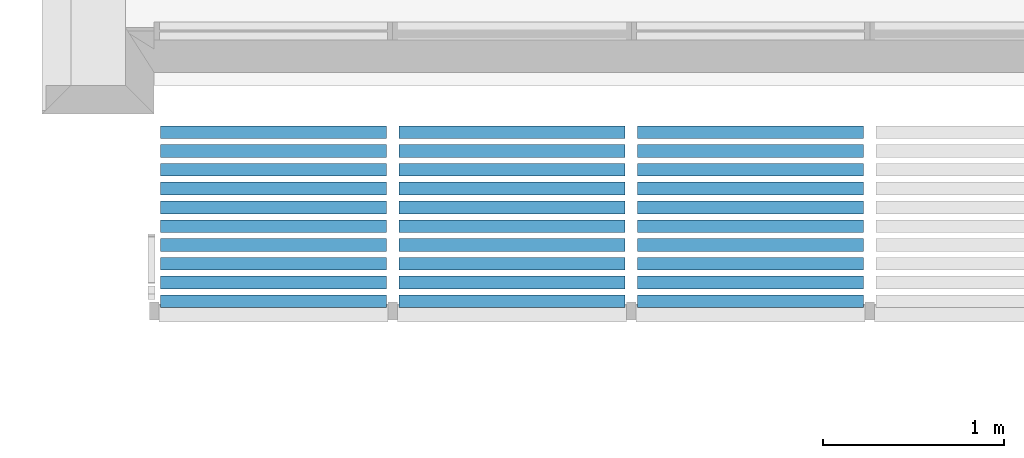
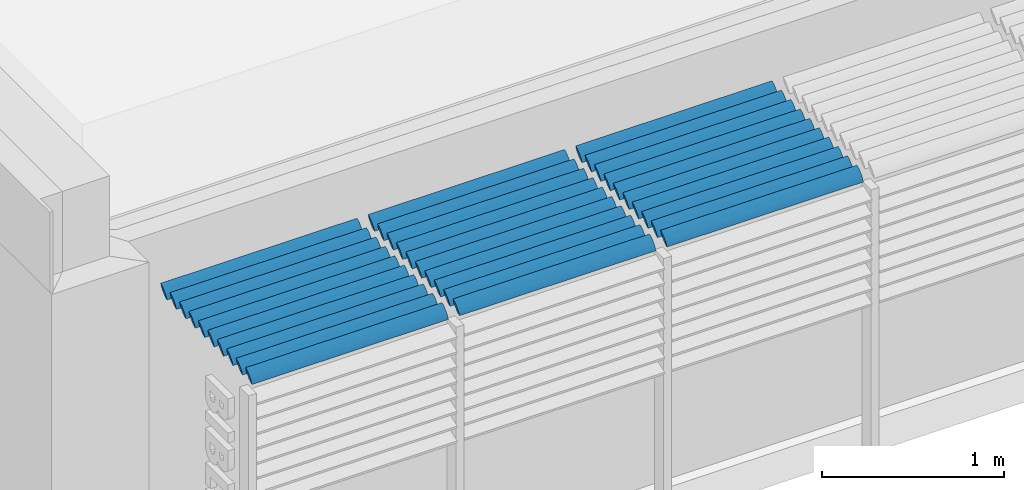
# One storey, part 31 of 64: 3 discrete accessories.
"""IFC2X3 building model written with IfcOpenShell, lengths in metres."""

import ifcopenshell
import ifcopenshell.guid

model = None  # the IFC model being written
_history = None  # IfcOwnerHistory: only IFC2X3 demands one
_inside = {}  # id of a spatial element -> (the spatial element, [elements in it])
_under = {}  # id of a project, library or spatial element -> (it, [spatial elements below it])
_declared = {}  # id of a project -> (the project, [libraries it declares])
_typed = {}  # id of a type object -> (the type object, [elements of that type])
_made_of = {}  # id of a material, layer set ... -> (it, [elements and type objects made of it])


def new_model(schema):
    """Start an empty IFC model of exactly this schema.

    Asked for "IFC4X3", IfcOpenShell would pick the latest addendum, in which some entities
    have other attributes; the version numbers below select the first issue.
    IFC2X3 requires an IfcOwnerHistory on every rooted entity: one is made here for all.
    """
    global model, _history
    if schema == "IFC4X3":
        model = ifcopenshell.file(schema_version=(4, 3, 0, 0))
    else:
        model = ifcopenshell.file(schema=schema)
    _inside.clear()
    _under.clear()
    _declared.clear()
    _typed.clear()
    _made_of.clear()
    _history = None
    if model.schema == "IFC2X3":
        org = make("IfcOrganization", Name="unknown")
        user = make(
            "IfcPersonAndOrganization",
            ThePerson=make("IfcPerson", FamilyName="unknown"),
            TheOrganization=org,
        )
        app = make(
            "IfcApplication",
            ApplicationDeveloper=org,
            Version="unknown",
            ApplicationFullName="unknown",
            ApplicationIdentifier="unknown",
        )
        _history = make(
            "IfcOwnerHistory",
            OwningUser=user,
            OwningApplication=app,
            ChangeAction="ADDED",
            CreationDate=0,
        )
    return model


def make(cls, **values):
    """One entity of the class cls with the attributes given. An attribute that is None is left unset."""
    return model.create_entity(
        cls, **{name: value for name, value in values.items() if value is not None}
    )


def entity(cls, *values):
    """Any entity or typed value of the class cls, its attributes in the order of the schema. None: left unset."""
    e = model.create_entity(cls)
    for i, value in enumerate(values):
        if value is not None:
            e[i] = value
    return e


def rooted(cls, **values):
    """An entity with a GlobalId (a new one), such as an element, a storey or a relation."""
    return make(cls, GlobalId=ifcopenshell.guid.new(), OwnerHistory=_history, **values)


def si_unit(unit_type, name, prefix=None):
    """IfcSIUnit, for example si_unit("LENGTHUNIT", "METRE", prefix="MILLI")."""
    return make("IfcSIUnit", UnitType=unit_type, Prefix=prefix, Name=name)


def converted_unit(unit_type, name, factor, base, dimensions=None, offset=None):
    """IfcConversionBasedUnit, such as the inch: factor (a typed value) times the base unit."""
    return make(
        "IfcConversionBasedUnit"
        if offset is None
        else "IfcConversionBasedUnitWithOffset",
        ConversionOffset=offset,
        Dimensions=None
        if dimensions is None
        else entity("IfcDimensionalExponents", *dimensions),
        UnitType=unit_type,
        Name=name,
        ConversionFactor=make(
            "IfcMeasureWithUnit", ValueComponent=factor, UnitComponent=base
        ),
    )


def derived_unit(unit_type, elements):
    """IfcDerivedUnit: a product of units, each with its exponent."""
    return make(
        "IfcDerivedUnit",
        Elements=[
            make("IfcDerivedUnitElement", Unit=unit, Exponent=power)
            for unit, power in elements
        ],
        UnitType=unit_type,
    )


def assignment(units):
    """IfcUnitAssignment: the units of a project."""
    return None if units is None else make("IfcUnitAssignment", Units=units)


def point(xyz):
    """IfcCartesianPoint."""
    return None if xyz is None else make("IfcCartesianPoint", Coordinates=xyz)


def direction(xyz):
    """IfcDirection."""
    return None if xyz is None else make("IfcDirection", DirectionRatios=xyz)


def frame(location, z_axis=None, x_axis=None):
    """IfcAxis2Placement3D, a coordinate frame: its origin and axes. An axis left out is left unset."""
    return make(
        "IfcAxis2Placement3D",
        Location=point(location),
        Axis=direction(z_axis),
        RefDirection=direction(x_axis),
    )


def origin():
    """The frame at (0, 0, 0) with its axes left unset."""
    return frame((0.0, 0.0, 0.0))


def place(relative_to, where):
    """IfcLocalPlacement: puts the frame where relative to a parent placement (None: the world)."""
    return make(
        "IfcLocalPlacement", PlacementRelTo=relative_to, RelativePlacement=where
    )


def context(
    kind, dimensions, precision=None, world=None, true_north=None, identifier=None
):
    """IfcGeometricRepresentationContext, for example the 3D "Model" context."""
    return make(
        "IfcGeometricRepresentationContext",
        ContextIdentifier=identifier,
        ContextType=kind,
        CoordinateSpaceDimension=dimensions,
        Precision=precision,
        WorldCoordinateSystem=world,
        TrueNorth=true_north,
    )


def subcontext(parent, identifier, kind, view, scale=None):
    """IfcGeometricRepresentationSubContext, for example "Body" below "Model"."""
    return make(
        "IfcGeometricRepresentationSubContext",
        ContextIdentifier=identifier,
        ContextType=kind,
        ParentContext=parent,
        TargetScale=scale,
        TargetView=view,
    )


def project(units=None, contexts=None):
    """IfcProject with its units and contexts."""
    return rooted(
        "IfcProject",
        Name="project",
        RepresentationContexts=contexts,
        UnitsInContext=assignment(units),
    )


def spatial(cls, under=None, at=None, **own):
    """A site, building, storey or space (cls), placed at a placement, below another one or the project."""
    s = rooted(cls, ObjectPlacement=at, **own)
    if under is not None:
        _under.setdefault(under.id(), (under, []))[1].append(s)
    return s


def polyline(points):
    """IfcPolyline through the points."""
    return make("IfcPolyline", Points=[point(p) for p in points])


def outline(outer, holes=None, kind="AREA"):
    """IfcArbitraryClosedProfileDef: a profile drawn as a closed curve; with holes, ...WithVoids."""
    if holes is None:
        return make("IfcArbitraryClosedProfileDef", ProfileType=kind, OuterCurve=outer)
    return make(
        "IfcArbitraryProfileDefWithVoids",
        ProfileType=kind,
        OuterCurve=outer,
        InnerCurves=holes,
    )


def extrude(swept, where, along, depth):
    """IfcExtrudedAreaSolid: the profile swept, set in the frame where, extruded along a direction by depth."""
    return make(
        "IfcExtrudedAreaSolid",
        SweptArea=swept,
        Position=where,
        ExtrudedDirection=direction(along),
        Depth=depth,
    )


def shape(context_of_items, identifier, shape_type, items):
    """IfcShapeRepresentation: the items that make up one representation, for example the "Body"."""
    return make(
        "IfcShapeRepresentation",
        ContextOfItems=context_of_items,
        RepresentationIdentifier=identifier,
        RepresentationType=shape_type,
        Items=items,
    )


def source(mapping_origin, context_of_items, identifier, shape_type, items):
    """IfcRepresentationMap: a shape defined once, which mapped items show again and again."""
    return make(
        "IfcRepresentationMap",
        MappingOrigin=mapping_origin,
        MappedRepresentation=shape(context_of_items, identifier, shape_type, items),
    )


def transform(
    local_origin,
    x_axis=None,
    y_axis=None,
    z_axis=None,
    scale=None,
    scale2=None,
    scale3=None,
    uniform=True,
):
    """IfcCartesianTransformationOperator3D, or its non-uniform kind. x_axis, y_axis, z_axis: its Axis1, 2, 3."""
    if uniform:
        return make(
            "IfcCartesianTransformationOperator3D",
            Axis1=direction(x_axis),
            Axis2=direction(y_axis),
            LocalOrigin=point(local_origin),
            Scale=scale,
            Axis3=direction(z_axis),
        )
    return make(
        "IfcCartesianTransformationOperator3DnonUniform",
        Axis1=direction(x_axis),
        Axis2=direction(y_axis),
        LocalOrigin=point(local_origin),
        Scale=scale,
        Axis3=direction(z_axis),
        Scale2=scale2,
        Scale3=scale3,
    )


def mapped(mapping_source, mapping_target):
    """IfcMappedItem: shows the shape of a source again, moved by a transform."""
    return make(
        "IfcMappedItem", MappingSource=mapping_source, MappingTarget=mapping_target
    )


def material(Name=None, Category=None):
    """IfcMaterial."""
    return make("IfcMaterial", Name=Name, Category=Category)


def made_of(thing, what):
    """Note that an element or type object is made of a material, layer set ...; save() writes the relation."""
    if what is not None:
        _made_of.setdefault(what.id(), (what, []))[1].append(thing)
    return thing


def type_object(cls, material=None, **own):
    """A type object (cls), such as IfcWallType, which elements share."""
    return made_of(rooted(cls, **own), material)


def type_shapes(of_type, sources):
    """Give a type object the sources (RepresentationMaps) that its elements show as mapped items."""
    of_type.RepresentationMaps = sources


def element(
    cls,
    number,
    at=None,
    inside=None,
    cuts=None,
    type_object=None,
    material=None,
    context=None,
    identifier="Body",
    shape_type=None,
    held_by="IfcProductDefinitionShape",
    body=None,
    shapes=None,
    **own,
):
    """One element of the class cls, such as IfcWall. Its Tag is "e" and its number.

    at: its placement. inside: the storey or other place that contains it. cuts: it is an
    opening in that element (IfcRelVoidsElement). A single representation is given by context,
    identifier, shape_type and body (its items); several are given by shapes. held_by: the class
    of the entity that holds the representations. save() writes the other relations.
    """
    e = rooted(cls, Tag="e%d" % number, ObjectPlacement=at, **own)
    if body is not None:
        shapes = [shape(context, identifier, shape_type, body)]
    if shapes is not None:
        e.Representation = make(held_by, Representations=shapes)
    if inside is not None:
        _inside.setdefault(inside.id(), (inside, []))[1].append(e)
    if cuts is not None:
        rooted(
            "IfcRelVoidsElement", RelatingBuildingElement=cuts, RelatedOpeningElement=e
        )
    if type_object is not None:
        _typed.setdefault(type_object.id(), (type_object, []))[1].append(e)
    return made_of(e, material)


def aggregate(whole, parts):
    """IfcRelAggregates: a whole, such as a stair, and the parts it consists of."""
    return rooted("IfcRelAggregates", RelatingObject=whole, RelatedObjects=parts)


def save(model, path):
    """Write the relations noted so far, then the file.

    IfcRelAggregates (storeys below a building ...), IfcRelContainedInSpatialStructure (elements
    in a storey), IfcRelDefinesByType, IfcRelAssociatesMaterial and IfcRelDeclares: one each for
    every whole, place, type object, material and project.
    """
    for whole, parts in _under.values():
        aggregate(whole, parts)
    for where, things in _inside.values():
        rooted(
            "IfcRelContainedInSpatialStructure",
            RelatedElements=things,
            RelatingStructure=where,
        )
    for kind, things in _typed.values():
        rooted("IfcRelDefinesByType", RelatedObjects=things, RelatingType=kind)
    for what, things in _made_of.values():
        rooted("IfcRelAssociatesMaterial", RelatedObjects=things, RelatingMaterial=what)
    for by, libraries in _declared.values():
        rooted("IfcRelDeclares", RelatingContext=by, RelatedDefinitions=libraries)
    model.write(path)


model = new_model("IFC2X3")

# Units and contexts
model_context = context("Model", 3, precision=1e-05, world=origin(), true_north=direction((6.123031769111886e-17, 1.0)))
body_context = subcontext(model_context, "Body", "Model", "MODEL_VIEW")
ifc_project = project(units=[si_unit("LENGTHUNIT", "METRE"), si_unit("AREAUNIT", "SQUARE_METRE"), si_unit("VOLUMEUNIT", "CUBIC_METRE"), converted_unit("PLANEANGLEUNIT", "DEGREE", entity("IfcRatioMeasure", 0.017453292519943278), si_unit("PLANEANGLEUNIT", "RADIAN"), dimensions=[0, 0, 0, 0, 0, 0, 0]), si_unit("MASSUNIT", "GRAM", prefix="KILO"), derived_unit("MASSDENSITYUNIT", [(si_unit("MASSUNIT", "GRAM", prefix="KILO"), 1), (si_unit("LENGTHUNIT", "METRE"), -3)]), derived_unit("MOMENTOFINERTIAUNIT", [(si_unit("LENGTHUNIT", "METRE"), 4)]), si_unit("TIMEUNIT", "SECOND"), si_unit("FREQUENCYUNIT", "HERTZ"), si_unit("THERMODYNAMICTEMPERATUREUNIT", "DEGREE_CELSIUS"), derived_unit("THERMALTRANSMITTANCEUNIT", [(si_unit("MASSUNIT", "GRAM", prefix="KILO"), 1), (si_unit("THERMODYNAMICTEMPERATUREUNIT", "KELVIN"), -1), (si_unit("TIMEUNIT", "SECOND"), -3)]), derived_unit("THERMALCONDUCTANCEUNIT", [(si_unit("MASSUNIT", "GRAM", prefix="KILO"), 1), (si_unit("LENGTHUNIT", "METRE"), 1), (si_unit("THERMODYNAMICTEMPERATUREUNIT", "KELVIN"), -1), (si_unit("TIMEUNIT", "SECOND"), -3)]), derived_unit("VOLUMETRICFLOWRATEUNIT", [(si_unit("LENGTHUNIT", "METRE"), 3), (si_unit("TIMEUNIT", "SECOND"), -1)]), derived_unit("MASSFLOWRATEUNIT", [(si_unit("MASSUNIT", "GRAM", prefix="KILO"), 1), (si_unit("TIMEUNIT", "SECOND"), -1)]), derived_unit("ROTATIONALFREQUENCYUNIT", [(si_unit("TIMEUNIT", "SECOND"), -1)]), si_unit("ELECTRICCURRENTUNIT", "AMPERE"), si_unit("ELECTRICVOLTAGEUNIT", "VOLT"), si_unit("POWERUNIT", "WATT"), si_unit("FORCEUNIT", "NEWTON", prefix="KILO"), si_unit("ILLUMINANCEUNIT", "LUX"), si_unit("LUMINOUSFLUXUNIT", "LUMEN"), si_unit("LUMINOUSINTENSITYUNIT", "CANDELA"), derived_unit("USERDEFINED", [(si_unit("MASSUNIT", "GRAM", prefix="KILO"), -1), (si_unit("LENGTHUNIT", "METRE"), -2), (si_unit("TIMEUNIT", "SECOND"), 3), (si_unit("LUMINOUSFLUXUNIT", "LUMEN"), 1)]), derived_unit("USERDEFINED", [(si_unit("MASSUNIT", "GRAM", prefix="KILO"), 1), (si_unit("LENGTHUNIT", "METRE"), 3), (si_unit("TIMEUNIT", "SECOND"), -3), (si_unit("ELECTRICCURRENTUNIT", "AMPERE"), -2)]), derived_unit("USERDEFINED", [(si_unit("LENGTHUNIT", "METRE"), 2), (si_unit("TIMEUNIT", "SECOND"), -2)]), derived_unit("SOUNDPOWERUNIT", [(si_unit("MASSUNIT", "GRAM", prefix="KILO"), 1), (si_unit("LENGTHUNIT", "METRE"), 2), (si_unit("TIMEUNIT", "SECOND"), -3)]), derived_unit("SOUNDPRESSUREUNIT", [(si_unit("MASSUNIT", "GRAM", prefix="KILO"), 1), (si_unit("LENGTHUNIT", "METRE"), -1), (si_unit("TIMEUNIT", "SECOND"), -2)]), derived_unit("LINEARVELOCITYUNIT", [(si_unit("LENGTHUNIT", "METRE"), 1), (si_unit("TIMEUNIT", "SECOND"), -1)]), si_unit("PRESSUREUNIT", "PASCAL"), derived_unit("USERDEFINED", [(si_unit("LENGTHUNIT", "METRE"), -2), (si_unit("MASSUNIT", "GRAM", prefix="KILO"), 1), (si_unit("TIMEUNIT", "SECOND"), -2)]), derived_unit("LINEARFORCEUNIT", [(si_unit("MASSUNIT", "GRAM", prefix="KILO"), 1), (si_unit("LENGTHUNIT", "METRE"), 1), (si_unit("TIMEUNIT", "SECOND"), -2), (si_unit("LENGTHUNIT", "METRE"), -1)]), derived_unit("PLANARFORCEUNIT", [(si_unit("MASSUNIT", "GRAM", prefix="KILO"), 1), (si_unit("LENGTHUNIT", "METRE"), 1), (si_unit("TIMEUNIT", "SECOND"), -2), (si_unit("LENGTHUNIT", "METRE"), -2)]), derived_unit("SPECIFICHEATCAPACITYUNIT", [(si_unit("LENGTHUNIT", "METRE"), 2), (si_unit("TIMEUNIT", "SECOND"), -2), (si_unit("THERMODYNAMICTEMPERATUREUNIT", "KELVIN"), -1)]), derived_unit("VAPORPERMEABILITYUNIT", [(si_unit("TIMEUNIT", "SECOND"), 1), (si_unit("LENGTHUNIT", "METRE"), -1)]), derived_unit("DYNAMICVISCOSITYUNIT", [(si_unit("MASSUNIT", "GRAM", prefix="KILO"), 1), (si_unit("LENGTHUNIT", "METRE"), -1), (si_unit("TIMEUNIT", "SECOND"), -1)]), derived_unit("THERMALEXPANSIONCOEFFICIENTUNIT", [(si_unit("THERMODYNAMICTEMPERATUREUNIT", "KELVIN"), -1)])], contexts=[model_context])

# Site, building, storey
site_placement = place(None, origin())
site = spatial("IfcSite", under=ifc_project, at=site_placement, Name="Default", CompositionType="ELEMENT")
building_placement = place(site_placement, origin())
building = spatial("IfcBuilding", under=site, at=building_placement, CompositionType="ELEMENT")
storey_placement = place(building_placement, origin())
storey = spatial("IfcBuildingStorey", under=building, at=storey_placement, Name="REZ-DE-CHAUSSÉE", CompositionType="ELEMENT", Elevation=0.0)

# Discrete accessories
ifc_material = material(Name="Bois - Chêne clair")
discrete_accessory_type_1 = type_object("IfcDiscreteAccessoryType", Name="Symb-0003", material=ifc_material)
shared_shape_1 = source(origin(), body_context, "Body", "SweptSolid", [
    extrude(outline(polyline([(-0.04642383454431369, -0.018569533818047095), (-0.028473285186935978, -0.01856953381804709), (-0.011760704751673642, -0.015474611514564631), (0.019188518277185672, -0.003094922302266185), (0.03342516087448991, 0.006189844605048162), (0.046423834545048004, 0.01856953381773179), (0.028473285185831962, 0.01856953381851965), (0.011760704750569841, 0.01547461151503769), (-0.01918851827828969, 0.003094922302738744), (-0.033425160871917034, -0.006189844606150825), (-0.04642383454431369, -0.018569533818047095)])), frame((103.155752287, 5.6972094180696, 2.6500000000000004), z_axis=(1.0, 0.0, 0.0), x_axis=(0.0, 0.9191450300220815, 0.3939192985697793)), (0.0, 0.0, 1.0), 1.2500000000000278),
    extrude(outline(polyline([(-0.04642383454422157, -0.01856953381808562), (-0.028473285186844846, -0.018569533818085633), (-0.011760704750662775, -0.015474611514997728), (0.01918851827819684, -0.0030949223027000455), (0.033425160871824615, 0.00618984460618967), (0.04642383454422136, 0.01856953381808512), (0.02847328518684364, 0.01856953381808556), (0.01176070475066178, 0.015474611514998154), (-0.01918851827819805, 0.0030949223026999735), (-0.033425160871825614, -0.006189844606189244), (-0.04642383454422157, -0.01856953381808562)])), frame((103.155752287, 5.5932094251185, 2.6500000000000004), z_axis=(1.0, 0.0, 0.0), x_axis=(0.0, 0.9191450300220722, 0.3939192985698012)), (0.0, 0.0, 1.0), 1.2500000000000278),
    extrude(outline(polyline([(-0.04642383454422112, -0.018569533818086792), (-0.02847328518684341, -0.01856953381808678), (-0.011760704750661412, -0.015474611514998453), (0.01918851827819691, -0.0030949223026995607), (0.03342516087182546, 0.006189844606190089), (0.0464238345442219, 0.01856953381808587), (0.028473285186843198, 0.018569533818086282), (0.011760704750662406, 0.015474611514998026), (-0.019188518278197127, 0.003094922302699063), (-0.03342516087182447, -0.006189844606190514), (-0.04642383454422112, -0.018569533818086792)])), frame((103.155752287, 5.4892094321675, 2.6500000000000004), z_axis=(1.0, 0.0, 0.0), x_axis=(0.0, 0.9191450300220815, 0.3939192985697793)), (0.0, 0.0, 1.0), 1.2500000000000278),
    extrude(outline(polyline([(-0.04642383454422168, -0.018569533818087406), (-0.02847328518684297, -0.01856953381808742), (-0.01176070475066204, -0.01547461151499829), (0.019188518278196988, -0.00309492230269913), (0.03342516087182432, 0.0061898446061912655), (0.04642383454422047, 0.018569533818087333), (0.028473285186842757, 0.01856953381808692), (0.011760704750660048, 0.015474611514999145), (-0.019188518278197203, 0.003094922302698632), (-0.03342516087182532, -0.0061898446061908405), (-0.04642383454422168, -0.018569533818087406)])), frame((103.155752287, 5.385209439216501, 2.6500000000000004), z_axis=(1.0, 0.0, 0.0), x_axis=(0.0, 0.9191450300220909, 0.3939192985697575)), (0.0, 0.0, 1.0), 1.2500000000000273),
    extrude(outline(polyline([(-0.04642383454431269, -0.018569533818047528), (-0.02847328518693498, -0.01856953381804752), (-0.011760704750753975, -0.015474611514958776), (0.019188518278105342, -0.003094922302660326), (0.033425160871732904, 0.006189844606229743), (0.046423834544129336, 0.018569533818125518), (0.02847328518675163, 0.018569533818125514), (0.01176070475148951, 0.015474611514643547), (-0.019188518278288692, 0.0030949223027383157), (-0.03342516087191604, -0.006189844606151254), (-0.04642383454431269, -0.018569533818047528)])), frame((103.155752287, 5.281209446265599, 2.6500000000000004), z_axis=(1.0, 0.0, 0.0), x_axis=(0.0, 0.9191450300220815, 0.3939192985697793)), (0.0, 0.0, 1.0), 1.2500000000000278),
    extrude(outline(polyline([(-0.04642383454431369, -0.0185695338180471), (-0.028473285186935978, -0.018569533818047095), (-0.011760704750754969, -0.01547461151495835), (0.019188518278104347, -0.0030949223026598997), (0.033425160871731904, 0.006189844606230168), (0.04642383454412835, 0.01856953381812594), (0.028473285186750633, 0.018569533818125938), (0.01176070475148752, 0.0154746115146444), (-0.01918851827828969, 0.0030949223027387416), (-0.033425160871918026, -0.0061898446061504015), (-0.04642383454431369, -0.0185695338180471)])), frame((103.155752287, 5.177209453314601, 2.6500000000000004), z_axis=(1.0, 0.0, 0.0), x_axis=(0.0, 0.9191450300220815, 0.3939192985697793)), (0.0, 0.0, 1.0), 1.2500000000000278),
    extrude(outline(polyline([(-0.04642383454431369, -0.01856953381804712), (-0.028473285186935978, -0.01856953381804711), (-0.011760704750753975, -0.015474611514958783), (0.019188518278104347, -0.00309492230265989), (0.033425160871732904, 0.00618984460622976), (0.046423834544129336, 0.01856953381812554), (0.028473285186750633, 0.01856953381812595), (0.01176070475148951, 0.015474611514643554), (-0.01918851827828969, 0.0030949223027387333), (-0.033425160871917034, -0.006189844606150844), (-0.04642383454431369, -0.01856953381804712)])), frame((103.155752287, 5.0732094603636, 2.6500000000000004), z_axis=(1.0, 0.0, 0.0), x_axis=(0.0, 0.9191450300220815, 0.3939192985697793)), (0.0, 0.0, 1.0), 1.2500000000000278),
    extrude(outline(polyline([(-0.04642383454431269, -0.01856953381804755), (-0.02847328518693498, -0.01856953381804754), (-0.01176070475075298, -0.01547461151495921), (0.019188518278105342, -0.0030949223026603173), (0.033425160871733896, 0.006189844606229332), (0.046423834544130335, 0.018569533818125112), (0.02847328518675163, 0.018569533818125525), (0.01176070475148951, 0.015474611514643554), (-0.019188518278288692, 0.003094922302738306), (-0.03342516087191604, -0.0061898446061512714), (-0.04642383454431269, -0.01856953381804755)])), frame((103.155752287, 4.9692094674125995, 2.6500000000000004), z_axis=(1.0, 0.0, 0.0), x_axis=(0.0, 0.9191450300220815, 0.3939192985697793)), (0.0, 0.0, 1.0), 1.2500000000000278),
    extrude(outline(polyline([(-0.04642383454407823, -0.018569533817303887), (-0.028473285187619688, -0.018569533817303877), (-0.011760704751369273, -0.015474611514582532), (0.0191885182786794, -0.003094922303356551), (0.033425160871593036, 0.006189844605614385), (0.04642383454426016, 0.018569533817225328), (0.02847328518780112, 0.018569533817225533), (0.01176070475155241, 0.015474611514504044), (-0.01918851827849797, 0.0030949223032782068), (-0.03342516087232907, -0.006189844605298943), (-0.04642383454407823, -0.018569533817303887)])), frame((103.155752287, 4.865209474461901, 2.6500000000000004), z_axis=(1.0, 0.0, 0.0), x_axis=(0.0, 0.9191450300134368, 0.3939192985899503)), (0.0, 0.0, 1.0), 1.2500000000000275),
    extrude(outline(polyline([(-0.046423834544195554, -0.018569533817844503), (-0.028473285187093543, -0.018569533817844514), (-0.011760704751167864, -0.01547461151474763), (0.019188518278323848, -0.00309492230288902), (0.03342516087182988, 0.006189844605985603), (0.04642383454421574, 0.018569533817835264), (0.02847328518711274, 0.018569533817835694), (0.011760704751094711, 0.015474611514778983), (-0.019188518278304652, 0.003094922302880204), (-0.033425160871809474, -0.006189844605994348), (-0.046423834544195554, -0.018569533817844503)])), frame((103.155752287, 4.76120948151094, 2.6500000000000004), z_axis=(1.0, 0.0, 0.0), x_axis=(0.0, 0.9191450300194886, 0.3939192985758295)), (0.0, 0.0, 1.0), 1.2500000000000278),
])
type_shapes(discrete_accessory_type_1, [shared_shape_1])
discrete_accessory_1_placement = place(storey_placement, origin())
element("IfcDiscreteAccessory", 1, at=discrete_accessory_1_placement, inside=storey, type_object=discrete_accessory_type_1, material=ifc_material, Name="Symb-0003 453133:Symb-0003 453133", ObjectType="Symb-0003 453133:Symb-0003 453133", context=body_context, shape_type="MappedRepresentation", body=[
    mapped(shared_shape_1, transform((0.0, 0.0, 0.0), scale=1.0)),
])
discrete_accessory_type_2 = type_object("IfcDiscreteAccessoryType", Name="Symb-0003", material=ifc_material)
shared_shape_2 = source(origin(), body_context, "Body", "SweptSolid", [
    extrude(outline(polyline([(-0.04642383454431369, -0.018569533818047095), (-0.028473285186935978, -0.01856953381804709), (-0.011760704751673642, -0.015474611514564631), (0.019188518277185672, -0.003094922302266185), (0.03342516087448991, 0.006189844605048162), (0.046423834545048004, 0.01856953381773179), (0.028473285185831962, 0.01856953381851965), (0.011760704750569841, 0.01547461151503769), (-0.01918851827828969, 0.003094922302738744), (-0.033425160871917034, -0.006189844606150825), (-0.04642383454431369, -0.018569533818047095)])), frame((104.47575228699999, 5.6972094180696, 2.6500000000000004), z_axis=(1.0, 0.0, 0.0), x_axis=(0.0, 0.9191450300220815, 0.3939192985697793)), (0.0, 0.0, 1.0), 1.2500000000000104),
    extrude(outline(polyline([(-0.04642383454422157, -0.01856953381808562), (-0.028473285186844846, -0.018569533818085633), (-0.011760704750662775, -0.015474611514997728), (0.01918851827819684, -0.0030949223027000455), (0.033425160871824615, 0.00618984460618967), (0.04642383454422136, 0.01856953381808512), (0.02847328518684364, 0.01856953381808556), (0.01176070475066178, 0.015474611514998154), (-0.01918851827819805, 0.0030949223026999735), (-0.033425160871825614, -0.006189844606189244), (-0.04642383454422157, -0.01856953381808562)])), frame((104.47575228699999, 5.5932094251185, 2.6500000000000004), z_axis=(1.0, 0.0, 0.0), x_axis=(0.0, 0.9191450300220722, 0.3939192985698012)), (0.0, 0.0, 1.0), 1.2500000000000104),
    extrude(outline(polyline([(-0.04642383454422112, -0.018569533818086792), (-0.02847328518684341, -0.01856953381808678), (-0.011760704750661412, -0.015474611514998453), (0.01918851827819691, -0.0030949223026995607), (0.03342516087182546, 0.006189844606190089), (0.0464238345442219, 0.01856953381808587), (0.028473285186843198, 0.018569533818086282), (0.011760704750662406, 0.015474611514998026), (-0.019188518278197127, 0.003094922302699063), (-0.03342516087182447, -0.006189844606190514), (-0.04642383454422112, -0.018569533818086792)])), frame((104.47575228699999, 5.4892094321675, 2.6500000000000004), z_axis=(1.0, 0.0, 0.0), x_axis=(0.0, 0.9191450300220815, 0.3939192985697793)), (0.0, 0.0, 1.0), 1.2500000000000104),
    extrude(outline(polyline([(-0.04642383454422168, -0.018569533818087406), (-0.02847328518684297, -0.01856953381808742), (-0.01176070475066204, -0.01547461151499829), (0.019188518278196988, -0.00309492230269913), (0.03342516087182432, 0.0061898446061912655), (0.04642383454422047, 0.018569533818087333), (0.028473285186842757, 0.01856953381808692), (0.011760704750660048, 0.015474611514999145), (-0.019188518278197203, 0.003094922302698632), (-0.03342516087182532, -0.0061898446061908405), (-0.04642383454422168, -0.018569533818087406)])), frame((104.47575228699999, 5.385209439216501, 2.6500000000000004), z_axis=(1.0, 0.0, 0.0), x_axis=(0.0, 0.9191450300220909, 0.3939192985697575)), (0.0, 0.0, 1.0), 1.25000000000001),
    extrude(outline(polyline([(-0.04642383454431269, -0.018569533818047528), (-0.02847328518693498, -0.01856953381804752), (-0.011760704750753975, -0.015474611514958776), (0.019188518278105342, -0.003094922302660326), (0.033425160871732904, 0.006189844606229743), (0.046423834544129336, 0.018569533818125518), (0.02847328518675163, 0.018569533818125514), (0.01176070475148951, 0.015474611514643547), (-0.019188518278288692, 0.0030949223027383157), (-0.03342516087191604, -0.006189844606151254), (-0.04642383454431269, -0.018569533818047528)])), frame((104.47575228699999, 5.281209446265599, 2.6500000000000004), z_axis=(1.0, 0.0, 0.0), x_axis=(0.0, 0.9191450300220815, 0.3939192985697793)), (0.0, 0.0, 1.0), 1.2500000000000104),
    extrude(outline(polyline([(-0.04642383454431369, -0.0185695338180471), (-0.028473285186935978, -0.018569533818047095), (-0.011760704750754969, -0.01547461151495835), (0.019188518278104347, -0.0030949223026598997), (0.033425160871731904, 0.006189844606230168), (0.04642383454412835, 0.01856953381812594), (0.028473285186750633, 0.018569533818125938), (0.01176070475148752, 0.0154746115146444), (-0.01918851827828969, 0.0030949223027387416), (-0.033425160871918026, -0.0061898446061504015), (-0.04642383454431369, -0.0185695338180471)])), frame((104.47575228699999, 5.177209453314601, 2.6500000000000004), z_axis=(1.0, 0.0, 0.0), x_axis=(0.0, 0.9191450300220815, 0.3939192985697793)), (0.0, 0.0, 1.0), 1.2500000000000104),
    extrude(outline(polyline([(-0.04642383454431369, -0.01856953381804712), (-0.028473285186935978, -0.01856953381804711), (-0.011760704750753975, -0.015474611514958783), (0.019188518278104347, -0.00309492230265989), (0.033425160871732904, 0.00618984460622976), (0.046423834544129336, 0.01856953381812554), (0.028473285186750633, 0.01856953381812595), (0.01176070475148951, 0.015474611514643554), (-0.01918851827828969, 0.0030949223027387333), (-0.033425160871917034, -0.006189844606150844), (-0.04642383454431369, -0.01856953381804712)])), frame((104.47575228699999, 5.0732094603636, 2.6500000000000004), z_axis=(1.0, 0.0, 0.0), x_axis=(0.0, 0.9191450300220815, 0.3939192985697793)), (0.0, 0.0, 1.0), 1.2500000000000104),
    extrude(outline(polyline([(-0.04642383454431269, -0.01856953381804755), (-0.02847328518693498, -0.01856953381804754), (-0.01176070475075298, -0.01547461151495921), (0.019188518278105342, -0.0030949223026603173), (0.033425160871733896, 0.006189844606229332), (0.046423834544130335, 0.018569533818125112), (0.02847328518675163, 0.018569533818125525), (0.01176070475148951, 0.015474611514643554), (-0.019188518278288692, 0.003094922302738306), (-0.03342516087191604, -0.0061898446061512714), (-0.04642383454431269, -0.01856953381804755)])), frame((104.47575228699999, 4.9692094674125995, 2.6500000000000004), z_axis=(1.0, 0.0, 0.0), x_axis=(0.0, 0.9191450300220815, 0.3939192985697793)), (0.0, 0.0, 1.0), 1.2500000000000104),
    extrude(outline(polyline([(-0.04642383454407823, -0.018569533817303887), (-0.028473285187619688, -0.018569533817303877), (-0.011760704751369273, -0.015474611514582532), (0.0191885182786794, -0.003094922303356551), (0.033425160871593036, 0.006189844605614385), (0.04642383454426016, 0.018569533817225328), (0.02847328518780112, 0.018569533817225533), (0.01176070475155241, 0.015474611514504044), (-0.01918851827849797, 0.0030949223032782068), (-0.03342516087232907, -0.006189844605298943), (-0.04642383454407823, -0.018569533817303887)])), frame((104.47575228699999, 4.865209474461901, 2.6500000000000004), z_axis=(1.0, 0.0, 0.0), x_axis=(0.0, 0.9191450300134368, 0.3939192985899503)), (0.0, 0.0, 1.0), 1.2500000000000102),
    extrude(outline(polyline([(-0.046423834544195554, -0.018569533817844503), (-0.028473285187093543, -0.018569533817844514), (-0.011760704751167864, -0.01547461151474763), (0.019188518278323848, -0.00309492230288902), (0.03342516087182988, 0.006189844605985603), (0.04642383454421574, 0.018569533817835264), (0.02847328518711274, 0.018569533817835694), (0.011760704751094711, 0.015474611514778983), (-0.019188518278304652, 0.003094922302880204), (-0.033425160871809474, -0.006189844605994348), (-0.046423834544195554, -0.018569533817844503)])), frame((104.47575228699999, 4.76120948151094, 2.6500000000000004), z_axis=(1.0, 0.0, 0.0), x_axis=(0.0, 0.9191450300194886, 0.3939192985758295)), (0.0, 0.0, 1.0), 1.2500000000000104),
])
type_shapes(discrete_accessory_type_2, [shared_shape_2])
discrete_accessory_2_placement = place(storey_placement, origin())
element("IfcDiscreteAccessory", 2, at=discrete_accessory_2_placement, inside=storey, type_object=discrete_accessory_type_2, material=ifc_material, Name="Symb-0003 453163:Symb-0003 453163", ObjectType="Symb-0003 453163:Symb-0003 453163", context=body_context, shape_type="MappedRepresentation", body=[
    mapped(shared_shape_2, transform((0.0, 0.0, 0.0), scale=1.0)),
])
discrete_accessory_type_3 = type_object("IfcDiscreteAccessoryType", Name="Symb-0003", material=ifc_material)
shared_shape_3 = source(origin(), body_context, "Body", "SweptSolid", [
    extrude(outline(polyline([(-0.04642383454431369, -0.018569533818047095), (-0.028473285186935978, -0.01856953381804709), (-0.011760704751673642, -0.015474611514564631), (0.019188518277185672, -0.003094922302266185), (0.03342516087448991, 0.006189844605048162), (0.046423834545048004, 0.01856953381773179), (0.028473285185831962, 0.01856953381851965), (0.011760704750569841, 0.01547461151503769), (-0.01918851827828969, 0.003094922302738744), (-0.033425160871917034, -0.006189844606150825), (-0.04642383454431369, -0.018569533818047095)])), frame((105.79575228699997, 5.6972094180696, 2.6500000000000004), z_axis=(1.0, 0.0, 0.0), x_axis=(0.0, 0.9191450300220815, 0.3939192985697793)), (0.0, 0.0, 1.0), 1.2500000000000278),
    extrude(outline(polyline([(-0.04642383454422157, -0.01856953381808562), (-0.028473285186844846, -0.018569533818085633), (-0.011760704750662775, -0.015474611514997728), (0.01918851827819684, -0.0030949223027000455), (0.033425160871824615, 0.00618984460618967), (0.04642383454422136, 0.01856953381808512), (0.02847328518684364, 0.01856953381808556), (0.01176070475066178, 0.015474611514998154), (-0.01918851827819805, 0.0030949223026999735), (-0.033425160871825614, -0.006189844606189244), (-0.04642383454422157, -0.01856953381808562)])), frame((105.79575228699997, 5.5932094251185, 2.6500000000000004), z_axis=(1.0, 0.0, 0.0), x_axis=(0.0, 0.9191450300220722, 0.3939192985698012)), (0.0, 0.0, 1.0), 1.2500000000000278),
    extrude(outline(polyline([(-0.04642383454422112, -0.018569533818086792), (-0.02847328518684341, -0.01856953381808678), (-0.011760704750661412, -0.015474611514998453), (0.01918851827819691, -0.0030949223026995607), (0.03342516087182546, 0.006189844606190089), (0.0464238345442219, 0.01856953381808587), (0.028473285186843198, 0.018569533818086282), (0.011760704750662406, 0.015474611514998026), (-0.019188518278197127, 0.003094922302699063), (-0.03342516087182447, -0.006189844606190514), (-0.04642383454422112, -0.018569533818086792)])), frame((105.79575228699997, 5.4892094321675, 2.6500000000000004), z_axis=(1.0, 0.0, 0.0), x_axis=(0.0, 0.9191450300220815, 0.3939192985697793)), (0.0, 0.0, 1.0), 1.2500000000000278),
    extrude(outline(polyline([(-0.04642383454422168, -0.018569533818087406), (-0.02847328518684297, -0.01856953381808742), (-0.01176070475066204, -0.01547461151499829), (0.019188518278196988, -0.00309492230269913), (0.03342516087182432, 0.0061898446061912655), (0.04642383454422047, 0.018569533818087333), (0.028473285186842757, 0.01856953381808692), (0.011760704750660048, 0.015474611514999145), (-0.019188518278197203, 0.003094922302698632), (-0.03342516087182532, -0.0061898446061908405), (-0.04642383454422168, -0.018569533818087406)])), frame((105.79575228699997, 5.385209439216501, 2.6500000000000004), z_axis=(1.0, 0.0, 0.0), x_axis=(0.0, 0.9191450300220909, 0.3939192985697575)), (0.0, 0.0, 1.0), 1.2500000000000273),
    extrude(outline(polyline([(-0.04642383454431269, -0.018569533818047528), (-0.02847328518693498, -0.01856953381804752), (-0.011760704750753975, -0.015474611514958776), (0.019188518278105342, -0.003094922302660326), (0.033425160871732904, 0.006189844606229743), (0.046423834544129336, 0.018569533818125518), (0.02847328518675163, 0.018569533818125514), (0.01176070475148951, 0.015474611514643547), (-0.019188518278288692, 0.0030949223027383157), (-0.03342516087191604, -0.006189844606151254), (-0.04642383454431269, -0.018569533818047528)])), frame((105.79575228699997, 5.281209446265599, 2.6500000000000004), z_axis=(1.0, 0.0, 0.0), x_axis=(0.0, 0.9191450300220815, 0.3939192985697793)), (0.0, 0.0, 1.0), 1.2500000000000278),
    extrude(outline(polyline([(-0.04642383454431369, -0.0185695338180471), (-0.028473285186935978, -0.018569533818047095), (-0.011760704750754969, -0.01547461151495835), (0.019188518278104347, -0.0030949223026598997), (0.033425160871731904, 0.006189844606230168), (0.04642383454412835, 0.01856953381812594), (0.028473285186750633, 0.018569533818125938), (0.01176070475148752, 0.0154746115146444), (-0.01918851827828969, 0.0030949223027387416), (-0.033425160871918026, -0.0061898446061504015), (-0.04642383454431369, -0.0185695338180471)])), frame((105.79575228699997, 5.177209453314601, 2.6500000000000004), z_axis=(1.0, 0.0, 0.0), x_axis=(0.0, 0.9191450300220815, 0.3939192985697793)), (0.0, 0.0, 1.0), 1.2500000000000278),
    extrude(outline(polyline([(-0.04642383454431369, -0.01856953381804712), (-0.028473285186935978, -0.01856953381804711), (-0.011760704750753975, -0.015474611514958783), (0.019188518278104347, -0.00309492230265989), (0.033425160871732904, 0.00618984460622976), (0.046423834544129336, 0.01856953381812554), (0.028473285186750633, 0.01856953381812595), (0.01176070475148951, 0.015474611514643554), (-0.01918851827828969, 0.0030949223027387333), (-0.033425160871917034, -0.006189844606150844), (-0.04642383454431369, -0.01856953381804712)])), frame((105.79575228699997, 5.0732094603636, 2.6500000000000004), z_axis=(1.0, 0.0, 0.0), x_axis=(0.0, 0.9191450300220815, 0.3939192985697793)), (0.0, 0.0, 1.0), 1.2500000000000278),
    extrude(outline(polyline([(-0.04642383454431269, -0.01856953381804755), (-0.02847328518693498, -0.01856953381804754), (-0.01176070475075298, -0.01547461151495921), (0.019188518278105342, -0.0030949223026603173), (0.033425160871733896, 0.006189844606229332), (0.046423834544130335, 0.018569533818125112), (0.02847328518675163, 0.018569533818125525), (0.01176070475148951, 0.015474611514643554), (-0.019188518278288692, 0.003094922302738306), (-0.03342516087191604, -0.0061898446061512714), (-0.04642383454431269, -0.01856953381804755)])), frame((105.79575228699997, 4.9692094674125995, 2.6500000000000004), z_axis=(1.0, 0.0, 0.0), x_axis=(0.0, 0.9191450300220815, 0.3939192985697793)), (0.0, 0.0, 1.0), 1.2500000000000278),
    extrude(outline(polyline([(-0.04642383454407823, -0.018569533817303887), (-0.028473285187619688, -0.018569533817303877), (-0.011760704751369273, -0.015474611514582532), (0.0191885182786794, -0.003094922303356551), (0.033425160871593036, 0.006189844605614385), (0.04642383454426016, 0.018569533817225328), (0.02847328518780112, 0.018569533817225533), (0.01176070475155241, 0.015474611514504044), (-0.01918851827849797, 0.0030949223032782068), (-0.03342516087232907, -0.006189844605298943), (-0.04642383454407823, -0.018569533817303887)])), frame((105.79575228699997, 4.865209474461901, 2.6500000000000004), z_axis=(1.0, 0.0, 0.0), x_axis=(0.0, 0.9191450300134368, 0.3939192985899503)), (0.0, 0.0, 1.0), 1.2500000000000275),
    extrude(outline(polyline([(-0.046423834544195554, -0.018569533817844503), (-0.028473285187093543, -0.018569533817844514), (-0.011760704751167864, -0.01547461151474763), (0.019188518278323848, -0.00309492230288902), (0.03342516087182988, 0.006189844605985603), (0.04642383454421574, 0.018569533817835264), (0.02847328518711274, 0.018569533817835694), (0.011760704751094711, 0.015474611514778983), (-0.019188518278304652, 0.003094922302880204), (-0.033425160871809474, -0.006189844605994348), (-0.046423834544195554, -0.018569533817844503)])), frame((105.79575228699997, 4.76120948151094, 2.6500000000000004), z_axis=(1.0, 0.0, 0.0), x_axis=(0.0, 0.9191450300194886, 0.3939192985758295)), (0.0, 0.0, 1.0), 1.2500000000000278),
])
type_shapes(discrete_accessory_type_3, [shared_shape_3])
discrete_accessory_3_placement = place(storey_placement, origin())
element("IfcDiscreteAccessory", 3, at=discrete_accessory_3_placement, inside=storey, type_object=discrete_accessory_type_3, material=ifc_material, Name="Symb-0003 453193:Symb-0003 453193", ObjectType="Symb-0003 453193:Symb-0003 453193", context=body_context, shape_type="MappedRepresentation", body=[
    mapped(shared_shape_3, transform((0.0, 0.0, 0.0), scale=1.0)),
])

save(model, "model.ifc")
